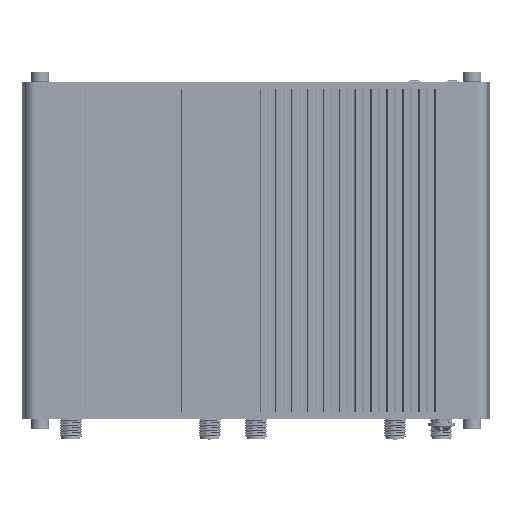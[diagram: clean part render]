
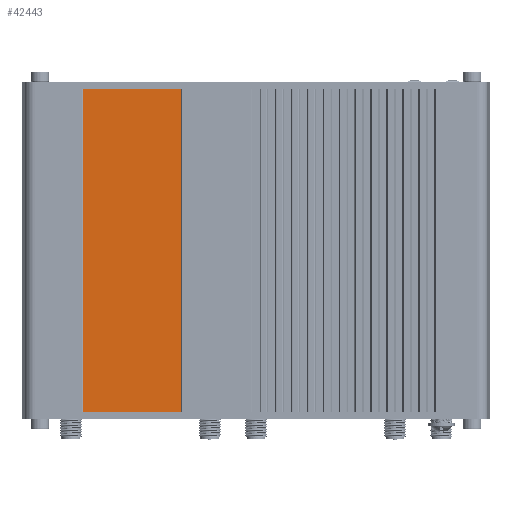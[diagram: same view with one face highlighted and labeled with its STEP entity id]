
A CAD part, front view. The second image highlights one B-rep face of the part: STEP entity #42443.
In plain terms, the highlighted planar face has unit normal (0, -1, 0).
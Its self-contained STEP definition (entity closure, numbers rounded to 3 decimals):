
#5523 = VERTEX_POINT ( 'NONE', #223482 ) ;
#10571 = VERTEX_POINT ( 'NONE', #279340 ) ;
#18322 = LINE ( 'NONE', #336146, #475772 ) ;
#19284 = VECTOR ( 'NONE', #268079, 1000. ) ;
#20847 = VECTOR ( 'NONE', #222737, 1000. ) ;
#27726 = EDGE_LOOP ( 'NONE', ( #224846, #328919, #120167, #275238 ) ) ;
#40251 = CARTESIAN_POINT ( 'NONE',  ( -48.9, -21.85, -45.5 ) ) ;
#41829 = CARTESIAN_POINT ( 'NONE',  ( -48.9, -21.85, 45.5 ) ) ;
#42443 = ADVANCED_FACE ( 'NONE', ( #265862 ), #71012, .F. ) ;
#44308 = LINE ( 'NONE', #41829, #458239 ) ;
#48878 = EDGE_CURVE ( 'NONE', #125254, #10571, #118744, .T. ) ;
#63395 = LINE ( 'NONE', #189724, #20847 ) ;
#69950 = AXIS2_PLACEMENT_3D ( 'NONE', #76019, #463058, #306227 ) ;
#71012 = PLANE ( 'NONE',  #69950 ) ;
#76019 = CARTESIAN_POINT ( 'NONE',  ( -48.9, -21.85, 45.5 ) ) ;
#106097 = DIRECTION ( 'NONE',  ( 1., 0., 0. ) ) ;
#118744 = LINE ( 'NONE', #40251, #19284 ) ;
#120167 = ORIENTED_EDGE ( 'NONE', *, *, #223344, .F. ) ;
#125254 = VERTEX_POINT ( 'NONE', #348541 ) ;
#148835 = EDGE_CURVE ( 'NONE', #5523, #125254, #44308, .T. ) ;
#189724 = CARTESIAN_POINT ( 'NONE',  ( -21.1, -21.85, 45.5 ) ) ;
#222737 = DIRECTION ( 'NONE',  ( 0., 0., -1. ) ) ;
#223344 = EDGE_CURVE ( 'NONE', #5523, #337859, #18322, .T. ) ;
#223482 = CARTESIAN_POINT ( 'NONE',  ( -48.9, -21.85, 45.5 ) ) ;
#224846 = ORIENTED_EDGE ( 'NONE', *, *, #48878, .T. ) ;
#265862 = FACE_OUTER_BOUND ( 'NONE', #27726, .T. ) ;
#268079 = DIRECTION ( 'NONE',  ( 1., 0., 0. ) ) ;
#275238 = ORIENTED_EDGE ( 'NONE', *, *, #148835, .T. ) ;
#279340 = CARTESIAN_POINT ( 'NONE',  ( -21.1, -21.85, -45.5 ) ) ;
#306227 = DIRECTION ( 'NONE',  ( 1., 0., 0. ) ) ;
#328919 = ORIENTED_EDGE ( 'NONE', *, *, #389190, .F. ) ;
#336146 = CARTESIAN_POINT ( 'NONE',  ( -48.9, -21.85, 45.5 ) ) ;
#337859 = VERTEX_POINT ( 'NONE', #377210 ) ;
#348541 = CARTESIAN_POINT ( 'NONE',  ( -48.9, -21.85, -45.5 ) ) ;
#377210 = CARTESIAN_POINT ( 'NONE',  ( -21.1, -21.85, 45.5 ) ) ;
#389190 = EDGE_CURVE ( 'NONE', #337859, #10571, #63395, .T. ) ;
#426351 = DIRECTION ( 'NONE',  ( 0., 0., -1. ) ) ;
#458239 = VECTOR ( 'NONE', #426351, 1000. ) ;
#463058 = DIRECTION ( 'NONE',  ( 0., 1., 0. ) ) ;
#475772 = VECTOR ( 'NONE', #106097, 1000. ) ;
